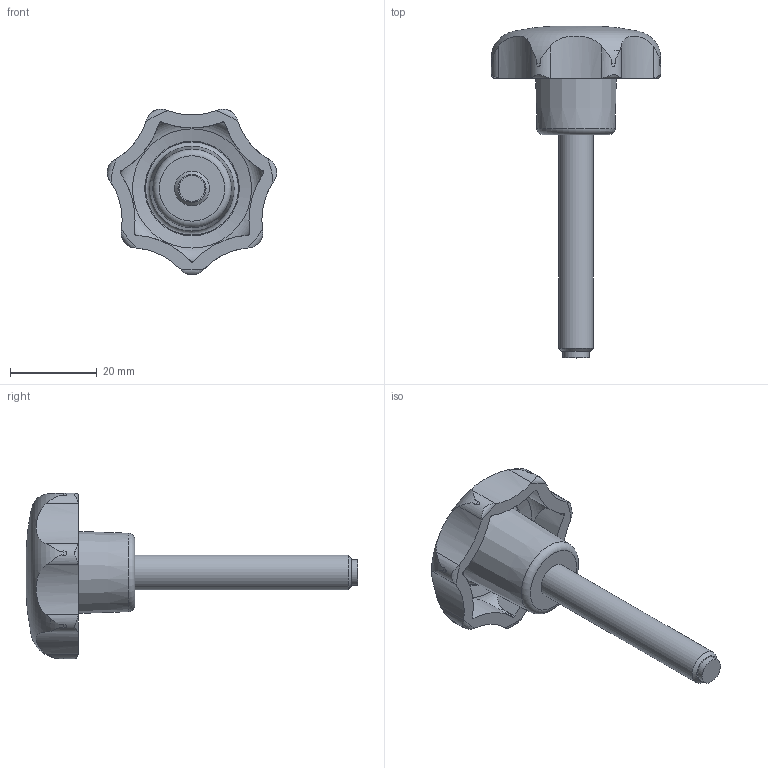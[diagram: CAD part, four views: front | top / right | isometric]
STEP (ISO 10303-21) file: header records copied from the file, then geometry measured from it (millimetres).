
FILE_DESCRIPTION( ( 'STEP AP203' ), '1' );
FILE_NAME( 'C:/Temp/Ganter_Step_05_03_2020/data/2_2/gn6336_10/Star knob GN 6336.10-40-M8-50-MS.stp', '2020-03-05T12:04:13', ( 'License CC BY-ND 4.0' ), ( 'CADENAS' ), ' ', 'PARTsolutions', ' ' );
FILE_SCHEMA( ( 'CONFIG_CONTROL_DESIGN' ) );
Length unit declared in the file: millimetre
Products named in the file (1): _Star knob GN 6336.10-40-M8-50-MS
Bounding box: 39.03 x 76.57 x 38.23 mm (x, y, z)
Volume: 14058.9 mm3; surface area: 6399.9 mm2
Topology: 1 solids, 1 shells, 64 faces, 188 edges, 128 vertices
Faces by surface type: cylinder 30, cone 17, torus 12, plane 4, bspline 1
Full cylindrical faces by diameter (mm): 6 x1, 8 x1
Entity records: 3177 total; most frequent: CARTESIAN_POINT 1616, ORIENTED_EDGE 346, DIRECTION 264, EDGE_CURVE 173, VERTEX_POINT 126, AXIS2_PLACEMENT_3D 118, B_SPLINE_CURVE_WITH_KNOTS 91, EDGE_LOOP 77
